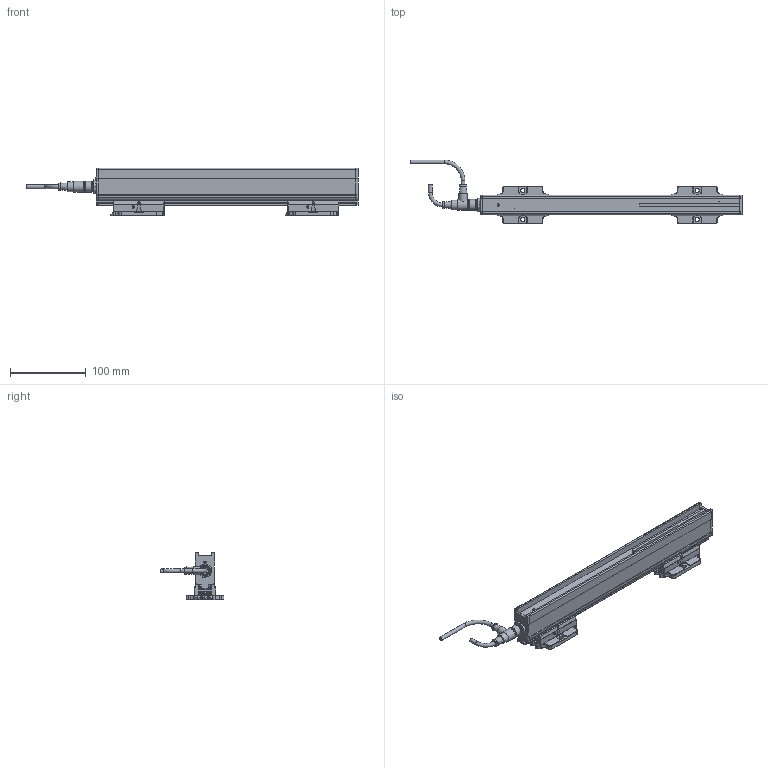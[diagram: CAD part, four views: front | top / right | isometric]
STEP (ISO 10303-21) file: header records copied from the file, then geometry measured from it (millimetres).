
FILE_DESCRIPTION(('Bauteilbeschreibung','HiCAD-Model','HiCAD-STEP-TRANSLATION','Bauteilbeschreibung'),'2;1');
FILE_NAME('PERFORMAXIQEASY_270-360_3D.STP','2014-03-05T11:14:58+00:00',('Konstrukteur'),('Konstrukteur Firma GmbH'),' HiCAD 2011, Step 1600.0 ','HiCAD 2011','confidential');
FILE_SCHEMA(('AUTOMOTIVE_DESIGN { 1 2 10303 214 0 1 1 1 }'));
Products named in the file (38): PERFORMAXIQEASY_270_360_3D; A_PERFORMAX IQ EASY 270_360; A_PERFORMAX IQ EASY SPEED; A_CAP DE; A_CAP CE_5; GROUP; PIN; GROUP0; PIN0; LED_2C_3MM; LED02C03MM; A519020315_CONNECTOR APPLIANCE; A_INSERT; A_CONTACTS; A_HOUSING; A_PROFILE; A_POTTING; A532000100_BRACKET BARS_ MOUNT; A_SIDE PIECE; A0SIDE0PIECE; A_BRACKET SMALL; A_SLIDE PIECE; A5320001000BRACKET0BARS00MOUNT; A0SIDE0PIECE0; A0SIDE0PIECE1; A0BRACKET0SMALL; A0SLIDE0PIECE; A_CONNECTOR STRAIGHT; EXTRUDED SOLID_0; DRAAD GEBOGEN; REVOLVED SOLID_1; REVOLVED SOLID_3; A_CONNECTOR ANGLED; REVOLVED0SOLID01; EXTRUDED0SOLID00; C_EDGE SWEEP_0; REVOLVED SOLID_2; REVOLVED0SOLID03
Assembly tree (37 placements, depth 5):
  PERFORMAXIQEASY_270_360_3D
    A_PERFORMAX IQ EASY 270_360
      A_PERFORMAX IQ EASY SPEED
        A_CAP DE
        A_CAP CE_5
        GROUP
          PIN
        GROUP0
          PIN0
        LED_2C_3MM
        LED02C03MM
        A519020315_CONNECTOR APPLIANCE
          A_INSERT
          A_CONTACTS
          A_HOUSING
        A_PROFILE
        A_POTTING
      A532000100_BRACKET BARS_ MOUNT
        A_SIDE PIECE
        A0SIDE0PIECE
        A_BRACKET SMALL
        A_SLIDE PIECE
      A5320001000BRACKET0BARS00MOUNT
        A0SIDE0PIECE0
        A0SIDE0PIECE1
        A0BRACKET0SMALL
        A0SLIDE0PIECE
      A_CONNECTOR STRAIGHT
        EXTRUDED SOLID_0
        DRAAD GEBOGEN
        REVOLVED SOLID_1
        REVOLVED SOLID_3
      A_CONNECTOR ANGLED
        REVOLVED0SOLID01
        EXTRUDED0SOLID00
        C_EDGE SWEEP_0
        REVOLVED SOLID_2
        REVOLVED0SOLID03
Bounding box: 437.89 x 84.28 x 63.13 mm (x, y, z)
Volume: 406578.1 mm3; surface area: 132991.4 mm2
Topology: 33 solids, 33 shells, 1911 faces, 4879 edges, 2932 vertices
Faces by surface type: cylinder 777, plane 751, sphere 112, torus 111, bspline 88, cone 72
Full cylindrical faces by diameter (mm): 0.8 x10, 1 x5, 2.387 x4, 3 x11, 3.1 x1, 4.2 x2, 5 x4, 5.5 x10, 8 x2, 8.2 x1, 8.4 x2, 8.945 x1, 9 x2, 10.2 x1, 10.5 x3, 11 x1, 12 x3, 12.8 x1, 13.8 x4, 14.5 x3
Entity records: 87383 total; most frequent: CARTESIAN_POINT 19760, DIRECTION 9521, ORIENTED_EDGE 9176, EDGE_CURVE 4588, COLOUR_RGB 4377, PRESENTATION_STYLE_ASSIGNMENT 4377, OVER_RIDING_STYLED_ITEM 4349, CURVE_STYLE 4344
